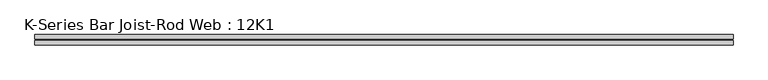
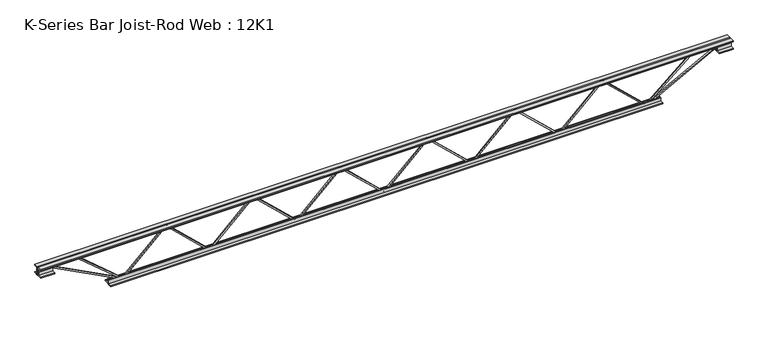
"""IFC4 building model written with IfcOpenShell, lengths in millimetres: beam geometry, K-Series Bar Joist-Rod Web : 12K1."""

from ifc_helpers import new_model, si_unit, frame, origin, place, context, project, spatial, polyline, outline, extrude, source, transform, mapped, element, save


def k_series_bar_joist_rod_web_12k1_562b93e1(model_context):
    return source(origin(), model_context, "Body", "SweptSolid", [
        extrude(outline(polyline([(-141.2875, 631.2958333), (-150.8125, 631.2958333), (-150.8125, 636.3642323), (141.2875, 945.662149), (141.2875, 948.225351), (-150.8125, 1257.5232677), (-150.8125, 1262.5916667), (-141.2875, 1262.5916667), (-141.2875, 1261.3100656), (150.8125, 952.012149), (150.8125, 941.875351), (-141.2875, 632.5774344), (-141.2875, 631.2958333)])), frame((0.0, -4.7625, 0.0), z_axis=(0.0, 1.0, 0.0), x_axis=(0.0, 0.0, 1.0)), (0.0, 0.0, 1.0), 9.525),
        extrude(outline(polyline([(-141.2875, 0.0), (-150.8125, 0.0), (-150.8125, 5.068399), (141.2875, 314.3663156), (141.2875, 316.9295177), (-150.8125, 626.2274344), (-150.8125, 631.2958333), (-141.2875, 631.2958333), (-141.2875, 630.0142323), (150.8125, 320.7163156), (150.8125, 310.5795177), (-141.2875, 1.281601), (-141.2875, 0.0)])), frame((0.0, -4.7625, 0.0), z_axis=(0.0, 1.0, 0.0), x_axis=(0.0, 0.0, 1.0)), (0.0, 0.0, 1.0), 9.525),
        extrude(outline(polyline([(-141.2875, -631.2958333), (-150.8125, -631.2958333), (-150.8125, -626.2274344), (141.2875, -316.9295177), (141.2875, -314.3663156), (-150.8125, -5.068399), (-150.8125, 0.0), (-141.2875, 0.0), (-141.2875, -1.281601), (150.8125, -310.5795177), (150.8125, -320.7163156), (-141.2875, -630.0142323), (-141.2875, -631.2958333)])), frame((0.0, -4.7625, 0.0), z_axis=(0.0, 1.0, 0.0), x_axis=(0.0, 0.0, 1.0)), (0.0, 0.0, 1.0), 9.525),
        extrude(outline(polyline([(-141.2875, -1262.5916667), (-150.8125, -1262.5916667), (-150.8125, -1257.5232677), (141.2875, -948.225351), (141.2875, -945.662149), (-150.8125, -636.3642323), (-150.8125, -631.2958333), (-141.2875, -631.2958333), (-141.2875, -632.5774344), (150.8125, -941.875351), (150.8125, -952.012149), (-141.2875, -1261.3100656), (-141.2875, -1262.5916667)])), frame((0.0, -4.7625, 0.0), z_axis=(0.0, 1.0, 0.0), x_axis=(0.0, 0.0, 1.0)), (0.0, 0.0, 1.0), 9.525),
        extrude(outline(polyline([(-141.2875, 1262.5916667), (-150.8125, 1262.5916667), (-150.8125, 1267.6600656), (141.2875, 1576.9579823), (141.2875, 1579.5211844), (-150.8125, 1888.819101), (-150.8125, 1893.8875), (-141.2875, 1893.8875), (-141.2875, 1892.605899), (150.8125, 1583.3079823), (150.8125, 1573.1711844), (-141.2875, 1263.8732677), (-141.2875, 1262.5916667)])), frame((0.0, -4.7625, 0.0), z_axis=(0.0, 1.0, 0.0), x_axis=(0.0, 0.0, 1.0)), (0.0, 0.0, 1.0), 9.525),
        extrude(outline(polyline([(-141.2875, -1893.8875), (-150.8125, -1893.8875), (-150.8125, -1888.819101), (141.2875, -1579.5211844), (141.2875, -1576.9579823), (-150.8125, -1267.6600656), (-150.8125, -1262.5916667), (-141.2875, -1262.5916667), (-141.2875, -1263.8732677), (150.8125, -1573.1711844), (150.8125, -1583.3079823), (-141.2875, -1892.605899), (-141.2875, -1893.8875)])), frame((0.0, -4.7625, 0.0), z_axis=(0.0, 1.0, 0.0), x_axis=(0.0, 0.0, 1.0)), (0.0, 0.0, 1.0), 9.525),
        extrude(outline(polyline([(4.7625, 152.4), (36.5125, 152.4), (36.5125, 146.05), (11.1125, 146.05), (11.1125, 120.65), (4.7625, 120.65), (4.7625, 152.4)])), frame((-2503.4875, 0.0, 0.0), z_axis=(1.0, 0.0, 0.0), x_axis=(0.0, 1.0, 0.0)), (0.0, 0.0, 1.0), 5006.975),
        extrude(outline(polyline([(-4.7625, 152.4), (-4.7625, 120.65), (-11.1125, 120.65), (-11.1125, 146.05), (-36.5125, 146.05), (-36.5125, 152.4), (-4.7625, 152.4)])), frame((-2503.4875, 0.0, 0.0), z_axis=(1.0, 0.0, 0.0), x_axis=(0.0, 1.0, 0.0)), (0.0, 0.0, 1.0), 5006.975),
        extrude(outline(polyline([(-4.7625, 88.9), (-36.5125, 88.9), (-36.5125, 95.25), (-11.1125, 95.25), (-11.1125, 120.65), (-4.7625, 120.65), (-4.7625, 88.9)])), frame((-2503.4875, 0.0, 0.0), z_axis=(1.0, 0.0, 0.0), x_axis=(0.0, 1.0, 0.0)), (0.0, 0.0, 1.0), 101.6),
        extrude(outline(polyline([(36.5125, 88.9), (4.7625, 88.9), (4.7625, 120.65), (11.1125, 120.65), (11.1125, 95.25), (36.5125, 95.25), (36.5125, 88.9)])), frame((-2503.4875, 0.0, 0.0), z_axis=(1.0, 0.0, 0.0), x_axis=(0.0, 1.0, 0.0)), (0.0, 0.0, 1.0), 101.6),
        extrude(outline(polyline([(4.7625, 88.9), (4.7625, 120.65), (11.1125, 120.65), (11.1125, 95.25), (36.5125, 95.25), (36.5125, 88.9), (4.7625, 88.9)])), frame((2401.8875, 0.0, 0.0), z_axis=(1.0, 0.0, 0.0), x_axis=(0.0, 1.0, 0.0)), (0.0, 0.0, 1.0), 101.6),
        extrude(outline(polyline([(-4.7625, 88.9), (-36.5125, 88.9), (-36.5125, 95.25), (-11.1125, 95.25), (-11.1125, 120.65), (-4.7625, 120.65), (-4.7625, 88.9)])), frame((2401.8875, 0.0, 0.0), z_axis=(1.0, 0.0, 0.0), x_axis=(0.0, 1.0, 0.0)), (0.0, 0.0, 1.0), 101.6),
        extrude(outline(polyline([(4.7625, -152.4), (4.7625, -120.65), (11.1125, -120.65), (11.1125, -146.05), (36.5125, -146.05), (36.5125, -152.4), (4.7625, -152.4)])), frame((-1995.4875, 0.0, 0.0), z_axis=(1.0, 0.0, 0.0), x_axis=(0.0, 1.0, 0.0)), (0.0, 0.0, 1.0), 3990.975),
        extrude(outline(polyline([(-4.7625, -152.4), (-36.5125, -152.4), (-36.5125, -146.05), (-11.1125, -146.05), (-11.1125, -120.65), (-4.7625, -120.65), (-4.7625, -152.4)])), frame((-1995.4875, 0.0, 0.0), z_axis=(1.0, 0.0, 0.0), x_axis=(0.0, 1.0, 0.0)), (0.0, 0.0, 1.0), 3990.975),
        extrude(outline(polyline([(0.0, -9.525), (0.0, 0.0), (573.7533355, 0.0), (573.7533355, -9.525), (0.0, -9.525)])), frame((-2404.1012714, 4.7625, 116.4332925), z_axis=(0.4648338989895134, 0.0, 0.8853979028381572), x_axis=(0.8853979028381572, 0.0, -0.4648338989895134)), (0.0, 0.0, 1.0), 9.525),
        extrude(outline(polyline([(0.0, -9.525), (0.0, 0.0), (413.2341918, 0.0), (413.2341918, -9.525), (0.0, -9.525)])), frame((-2212.6091186, 4.7625, 117.0121761), z_axis=(0.6453967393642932, 0.0, 0.7638475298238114), x_axis=(0.7638475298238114, 0.0, -0.6453967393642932)), (0.0, 0.0, 1.0), 9.525),
        extrude(outline(polyline([(0.0, -9.525), (0.0, 0.0), (573.7533355, 0.0), (573.7533355, -9.525), (0.0, -9.525)])), frame((2404.1012714, -4.7625, 116.4332925), z_axis=(-0.46483389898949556, 0.0, 0.8853979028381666), x_axis=(-0.8853979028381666, 0.0, -0.46483389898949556)), (0.0, 0.0, 1.0), 9.525),
        extrude(outline(polyline([(0.0, -9.525), (0.0, 0.0), (413.2341918, 0.0), (413.2341918, -9.525), (0.0, -9.525)])), frame((2212.6091186, -4.7625, 117.0121761), z_axis=(-0.6453967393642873, 0.0, 0.7638475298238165), x_axis=(-0.7638475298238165, 0.0, -0.6453967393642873)), (0.0, 0.0, 1.0), 9.525),
    ])


if __name__ == "__main__":
    model = new_model("IFC4")
    model_context = context("Model", 3, world=origin())
    ifc_project = project(units=[si_unit("LENGTHUNIT", "METRE", prefix="MILLI")], contexts=[model_context])
    site = spatial("IfcSite", under=ifc_project)
    building = spatial("IfcBuilding", under=site)
    placement = place(None, origin())
    k_series_bar_joist_rod_web_12k1_shape = k_series_bar_joist_rod_web_12k1_562b93e1(model_context)
    element("IfcBeam", 1, ObjectType="K-Series Bar Joist-Rod Web : 12K1", at=placement, inside=building, context=model_context, shape_type="MappedRepresentation", body=[
        mapped(k_series_bar_joist_rod_web_12k1_shape, transform((0.0, 0.0, 0.0), x_axis=(1.0, 0.0, 0.0), y_axis=(0.0, 1.0, 0.0), z_axis=(0.0, 0.0, 1.0))),
    ])
    save(model, "model.ifc")
